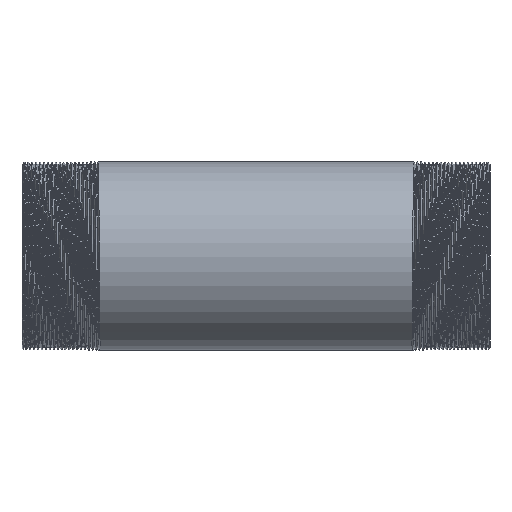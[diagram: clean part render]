
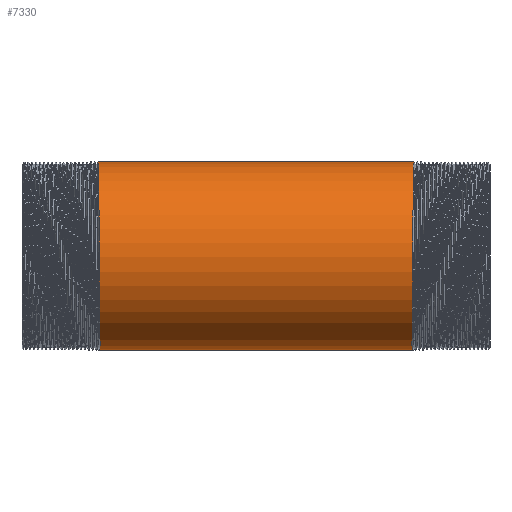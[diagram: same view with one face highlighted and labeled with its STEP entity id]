
A CAD part, front view. The second image highlights one B-rep face of the part: STEP entity #7330.
In plain terms, the highlighted cylindrical face has radius 30.15 mm (diameter 60.3 mm), a partial arc.
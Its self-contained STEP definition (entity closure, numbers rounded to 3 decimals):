
#100 = VERTEX_POINT ( 'NONE', #3103 ) ;
#163 = CARTESIAN_POINT ( 'NONE',  ( 49.984, -12.489, -30.15 ) ) ;
#695 = ORIENTED_EDGE ( 'NONE', *, *, #4114, .T. ) ;
#983 = CARTESIAN_POINT ( 'NONE',  ( -50.297, -30.15, 12.489 ) ) ;
#1892 = ORIENTED_EDGE ( 'NONE', *, *, #13483, .F. ) ;
#1893 = CARTESIAN_POINT ( 'NONE',  ( -149.494, 0., -30.15 ) ) ;
#2325 = CYLINDRICAL_SURFACE ( 'NONE', #14452, 30.15 ) ;
#3103 = CARTESIAN_POINT ( 'NONE',  ( 49.906, 0., -30.15 ) ) ;
#3365 = DIRECTION ( 'NONE',  ( -1., 0., 0. ) ) ;
#4114 = EDGE_CURVE ( 'NONE', #100, #14590, #10108, .T. ) ;
#4117 = CARTESIAN_POINT ( 'NONE',  ( 49.906, 0., -30.15 ) ) ;
#4907 = FACE_OUTER_BOUND ( 'NONE', #13337, .T. ) ;
#4963 = CARTESIAN_POINT ( 'NONE',  ( -49.984, -12.489, -30.15 ) ) ;
#5227 = CARTESIAN_POINT ( 'NONE',  ( -50.531, 0., 30.15 ) ) ;
#5497 = CARTESIAN_POINT ( 'NONE',  ( 50.141, -30.15, -12.489 ) ) ;
#5569 = VERTEX_POINT ( 'NONE', #9544 ) ;
#5780 = CARTESIAN_POINT ( 'NONE',  ( 50.297, -30.15, 12.489 ) ) ;
#5946 = LINE ( 'NONE', #1893, #9999 ) ;
#6336 = CARTESIAN_POINT ( 'NONE',  ( -49.906, 0., -30.15 ) ) ;
#6606 = CARTESIAN_POINT ( 'NONE',  ( -50.375, -21.319, 21.319 ) ) ;
#7330 = ADVANCED_FACE ( 'NONE', ( #4907 ), #2325, .T. ) ;
#7596 = DIRECTION ( 'NONE',  ( -1., 0., 0. ) ) ;
#7924 = ORIENTED_EDGE ( 'NONE', *, *, #14290, .F. ) ;
#8029 = DIRECTION ( 'NONE',  ( -1., 0., 0. ) ) ;
#8171 = CARTESIAN_POINT ( 'NONE',  ( 50.453, -12.489, 30.15 ) ) ;
#8355 = CARTESIAN_POINT ( 'NONE',  ( 50.531, 0., 30.15 ) ) ;
#8962 = CARTESIAN_POINT ( 'NONE',  ( 50.531, 0., 30.15 ) ) ;
#9493 = CARTESIAN_POINT ( 'NONE',  ( -50.531, 0., 30.15 ) ) ;
#9544 = CARTESIAN_POINT ( 'NONE',  ( -49.906, 0., -30.15 ) ) ;
#9827 = CARTESIAN_POINT ( 'NONE',  ( 50.063, -21.319, -21.319 ) ) ;
#9999 = VECTOR ( 'NONE', #7596, 1000. ) ;
#10080 = ORIENTED_EDGE ( 'NONE', *, *, #14292, .T. ) ;
#10108 =( BOUNDED_CURVE ( )  B_SPLINE_CURVE ( 2, ( #4117, #163, #9827, #5497, #15447, #5780, #11388, #8171, #8355 ),
 .UNSPECIFIED., .F., .F. ) 
 B_SPLINE_CURVE_WITH_KNOTS ( ( 3, 2, 2, 2, 3 ),
 ( 0., 0.005, 0.01, 0.016, 0.021 ),
 .UNSPECIFIED. ) 
 CURVE ( )  GEOMETRIC_REPRESENTATION_ITEM ( )  RATIONAL_B_SPLINE_CURVE ( ( 1., 0.924, 1., 0.924, 1., 0.924, 1., 0.924, 1. ) ) 
 REPRESENTATION_ITEM ( '' )  );
#10515 = CARTESIAN_POINT ( 'NONE',  ( -149.494, 0., 0. ) ) ;
#10565 = CARTESIAN_POINT ( 'NONE',  ( -50.063, -21.319, -21.319 ) ) ;
#10853 = VERTEX_POINT ( 'NONE', #9493 ) ;
#11388 = CARTESIAN_POINT ( 'NONE',  ( 50.375, -21.319, 21.319 ) ) ;
#11550 = LINE ( 'NONE', #13202, #17662 ) ;
#13202 = CARTESIAN_POINT ( 'NONE',  ( -149.494, 0., 30.15 ) ) ;
#13337 = EDGE_LOOP ( 'NONE', ( #7924, #695, #10080, #1892 ) ) ;
#13483 = EDGE_CURVE ( 'NONE', #5569, #10853, #13851, .T. ) ;
#13597 = CARTESIAN_POINT ( 'NONE',  ( -50.141, -30.15, -12.489 ) ) ;
#13851 =( BOUNDED_CURVE ( )  B_SPLINE_CURVE ( 2, ( #6336, #4963, #10565, #13597, #16187, #983, #6606, #17841, #5227 ),
 .UNSPECIFIED., .F., .T. ) 
 B_SPLINE_CURVE_WITH_KNOTS ( ( 3, 2, 2, 2, 3 ),
 ( 0., 0.005, 0.01, 0.016, 0.021 ),
 .UNSPECIFIED. ) 
 CURVE ( )  GEOMETRIC_REPRESENTATION_ITEM ( )  RATIONAL_B_SPLINE_CURVE ( ( 1., 0.924, 1., 0.924, 1., 0.924, 1., 0.924, 1. ) ) 
 REPRESENTATION_ITEM ( '' )  );
#14290 = EDGE_CURVE ( 'NONE', #100, #5569, #5946, .T. ) ;
#14292 = EDGE_CURVE ( 'NONE', #14590, #10853, #11550, .T. ) ;
#14452 = AXIS2_PLACEMENT_3D ( 'NONE', #10515, #8029, #16231 ) ;
#14590 = VERTEX_POINT ( 'NONE', #8962 ) ;
#15447 = CARTESIAN_POINT ( 'NONE',  ( 50.219, -30.15, 0. ) ) ;
#16187 = CARTESIAN_POINT ( 'NONE',  ( -50.219, -30.15, 0. ) ) ;
#16231 = DIRECTION ( 'NONE',  ( 0., 0., 1. ) ) ;
#17662 = VECTOR ( 'NONE', #3365, 1000. ) ;
#17841 = CARTESIAN_POINT ( 'NONE',  ( -50.453, -12.489, 30.15 ) ) ;
